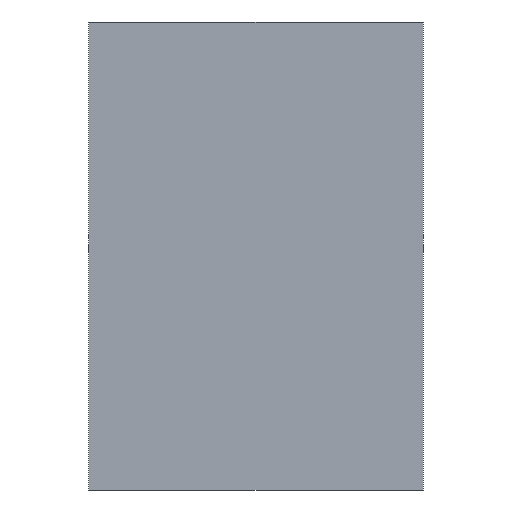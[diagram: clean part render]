
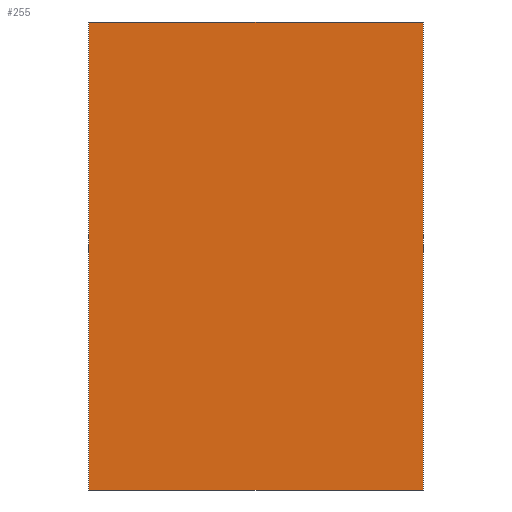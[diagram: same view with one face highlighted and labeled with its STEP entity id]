
A CAD part, front view. The second image highlights one B-rep face of the part: STEP entity #255.
In plain terms, the highlighted planar face has unit normal (0, -1, 0).
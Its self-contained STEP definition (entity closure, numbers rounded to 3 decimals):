
#39 = EDGE_CURVE('',#40,#42,#44,.T.);
#40 = VERTEX_POINT('',#41);
#41 = CARTESIAN_POINT('',(-1.5,-0.065,-2.1));
#42 = VERTEX_POINT('',#43);
#43 = CARTESIAN_POINT('',(-1.5,-0.065,2.1));
#44 = SURFACE_CURVE('',#45,(#49,#61),.PCURVE_S1.);
#45 = LINE('',#46,#47);
#46 = CARTESIAN_POINT('',(-1.5,-0.065,-2.1));
#47 = VECTOR('',#48,1.);
#48 = DIRECTION('',(0.,0.,1.));
#49 = PCURVE('',#50,#55);
#50 = PLANE('',#51);
#51 = AXIS2_PLACEMENT_3D('',#52,#53,#54);
#52 = CARTESIAN_POINT('',(-1.5,-0.065,-2.1));
#53 = DIRECTION('',(1.,0.,-0.));
#54 = DIRECTION('',(0.,0.,1.));
#55 = DEFINITIONAL_REPRESENTATION('',(#56),#60);
#56 = LINE('',#57,#58);
#57 = CARTESIAN_POINT('',(0.,0.));
#58 = VECTOR('',#59,1.);
#59 = DIRECTION('',(1.,0.));
#60 = ( GEOMETRIC_REPRESENTATION_CONTEXT(2) 
PARAMETRIC_REPRESENTATION_CONTEXT() REPRESENTATION_CONTEXT('2D SPACE',''
  ) );
#61 = PCURVE('',#62,#67);
#62 = PLANE('',#63);
#63 = AXIS2_PLACEMENT_3D('',#64,#65,#66);
#64 = CARTESIAN_POINT('',(-1.5,-0.065,-2.1));
#65 = DIRECTION('',(-0.,1.,0.));
#66 = DIRECTION('',(0.,0.,1.));
#67 = DEFINITIONAL_REPRESENTATION('',(#68),#72);
#68 = LINE('',#69,#70);
#69 = CARTESIAN_POINT('',(0.,0.));
#70 = VECTOR('',#71,1.);
#71 = DIRECTION('',(1.,0.));
#72 = ( GEOMETRIC_REPRESENTATION_CONTEXT(2) 
PARAMETRIC_REPRESENTATION_CONTEXT() REPRESENTATION_CONTEXT('2D SPACE',''
  ) );
#90 = PLANE('',#91);
#91 = AXIS2_PLACEMENT_3D('',#92,#93,#94);
#92 = CARTESIAN_POINT('',(-1.5,-0.065,-2.1));
#93 = DIRECTION('',(0.,0.,1.));
#94 = DIRECTION('',(1.,0.,-0.));
#144 = PLANE('',#145);
#145 = AXIS2_PLACEMENT_3D('',#146,#147,#148);
#146 = CARTESIAN_POINT('',(-1.5,-0.065,2.1));
#147 = DIRECTION('',(0.,0.,1.));
#148 = DIRECTION('',(1.,0.,-0.));
#159 = EDGE_CURVE('',#160,#162,#164,.T.);
#160 = VERTEX_POINT('',#161);
#161 = CARTESIAN_POINT('',(1.5,-0.065,-2.1));
#162 = VERTEX_POINT('',#163);
#163 = CARTESIAN_POINT('',(1.5,-0.065,2.1));
#164 = SURFACE_CURVE('',#165,(#169,#181),.PCURVE_S1.);
#165 = LINE('',#166,#167);
#166 = CARTESIAN_POINT('',(1.5,-0.065,-2.1));
#167 = VECTOR('',#168,1.);
#168 = DIRECTION('',(0.,0.,1.));
#169 = PCURVE('',#170,#175);
#170 = PLANE('',#171);
#171 = AXIS2_PLACEMENT_3D('',#172,#173,#174);
#172 = CARTESIAN_POINT('',(1.5,-0.065,-2.1));
#173 = DIRECTION('',(1.,0.,-0.));
#174 = DIRECTION('',(0.,0.,1.));
#175 = DEFINITIONAL_REPRESENTATION('',(#176),#180);
#176 = LINE('',#177,#178);
#177 = CARTESIAN_POINT('',(0.,0.));
#178 = VECTOR('',#179,1.);
#179 = DIRECTION('',(1.,0.));
#180 = ( GEOMETRIC_REPRESENTATION_CONTEXT(2) 
PARAMETRIC_REPRESENTATION_CONTEXT() REPRESENTATION_CONTEXT('2D SPACE',''
  ) );
#181 = PCURVE('',#62,#182);
#182 = DEFINITIONAL_REPRESENTATION('',(#183),#187);
#183 = LINE('',#184,#185);
#184 = CARTESIAN_POINT('',(0.,3.));
#185 = VECTOR('',#186,1.);
#186 = DIRECTION('',(1.,0.));
#187 = ( GEOMETRIC_REPRESENTATION_CONTEXT(2) 
PARAMETRIC_REPRESENTATION_CONTEXT() REPRESENTATION_CONTEXT('2D SPACE',''
  ) );
#255 = ADVANCED_FACE('',(#256),#62,.F.);
#256 = FACE_BOUND('',#257,.F.);
#257 = EDGE_LOOP('',(#258,#279,#280,#301));
#258 = ORIENTED_EDGE('',*,*,#259,.F.);
#259 = EDGE_CURVE('',#40,#160,#260,.T.);
#260 = SURFACE_CURVE('',#261,(#265,#272),.PCURVE_S1.);
#261 = LINE('',#262,#263);
#262 = CARTESIAN_POINT('',(-1.5,-0.065,-2.1));
#263 = VECTOR('',#264,1.);
#264 = DIRECTION('',(1.,0.,-0.));
#265 = PCURVE('',#62,#266);
#266 = DEFINITIONAL_REPRESENTATION('',(#267),#271);
#267 = LINE('',#268,#269);
#268 = CARTESIAN_POINT('',(0.,0.));
#269 = VECTOR('',#270,1.);
#270 = DIRECTION('',(0.,1.));
#271 = ( GEOMETRIC_REPRESENTATION_CONTEXT(2) 
PARAMETRIC_REPRESENTATION_CONTEXT() REPRESENTATION_CONTEXT('2D SPACE',''
  ) );
#272 = PCURVE('',#90,#273);
#273 = DEFINITIONAL_REPRESENTATION('',(#274),#278);
#274 = LINE('',#275,#276);
#275 = CARTESIAN_POINT('',(0.,0.));
#276 = VECTOR('',#277,1.);
#277 = DIRECTION('',(1.,0.));
#278 = ( GEOMETRIC_REPRESENTATION_CONTEXT(2) 
PARAMETRIC_REPRESENTATION_CONTEXT() REPRESENTATION_CONTEXT('2D SPACE',''
  ) );
#279 = ORIENTED_EDGE('',*,*,#39,.T.);
#280 = ORIENTED_EDGE('',*,*,#281,.T.);
#281 = EDGE_CURVE('',#42,#162,#282,.T.);
#282 = SURFACE_CURVE('',#283,(#287,#294),.PCURVE_S1.);
#283 = LINE('',#284,#285);
#284 = CARTESIAN_POINT('',(-1.5,-0.065,2.1));
#285 = VECTOR('',#286,1.);
#286 = DIRECTION('',(1.,0.,-0.));
#287 = PCURVE('',#62,#288);
#288 = DEFINITIONAL_REPRESENTATION('',(#289),#293);
#289 = LINE('',#290,#291);
#290 = CARTESIAN_POINT('',(4.2,0.));
#291 = VECTOR('',#292,1.);
#292 = DIRECTION('',(0.,1.));
#293 = ( GEOMETRIC_REPRESENTATION_CONTEXT(2) 
PARAMETRIC_REPRESENTATION_CONTEXT() REPRESENTATION_CONTEXT('2D SPACE',''
  ) );
#294 = PCURVE('',#144,#295);
#295 = DEFINITIONAL_REPRESENTATION('',(#296),#300);
#296 = LINE('',#297,#298);
#297 = CARTESIAN_POINT('',(0.,0.));
#298 = VECTOR('',#299,1.);
#299 = DIRECTION('',(1.,0.));
#300 = ( GEOMETRIC_REPRESENTATION_CONTEXT(2) 
PARAMETRIC_REPRESENTATION_CONTEXT() REPRESENTATION_CONTEXT('2D SPACE',''
  ) );
#301 = ORIENTED_EDGE('',*,*,#159,.F.);
